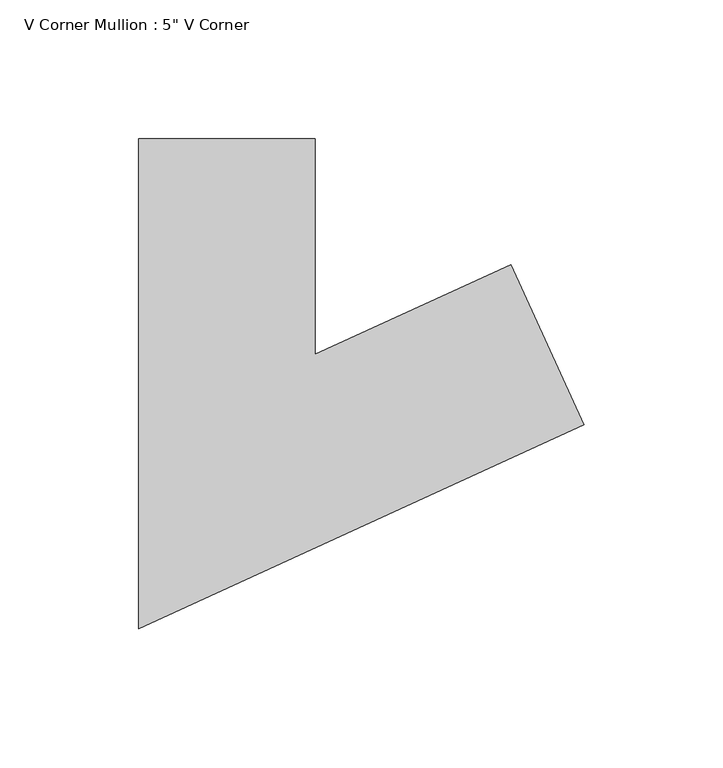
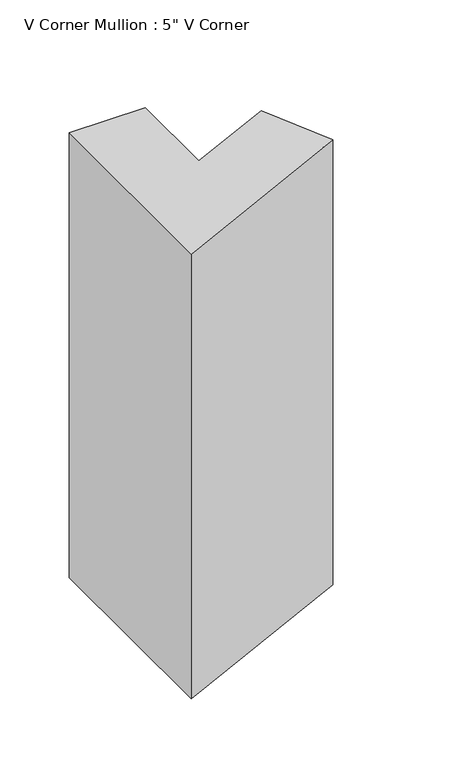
"""IFC4 building model written with IfcOpenShell, lengths in millimetres: member geometry."""

from ifc_helpers import new_model, si_unit, frame, origin, place, context, project, spatial, polyline, outline, extrude, source, transform, mapped, element, save


def member_c5bb3335(model_context):
    return source(origin(), model_context, "Body", "SweptSolid", [
        extrude(outline(polyline([(87.9205542, -39.5195451), (-72.5228811, -112.9476953), (-72.5228811, 63.5), (-9.0228811, 63.5), (-9.0228811, -14.0523047), (61.49523, 18.2208415), (87.9205542, -39.5195451)])), frame((0.0, 0.0, -392.4188496), z_axis=(0.0, 0.0, 1.0), x_axis=(1.0, 0.0, 0.0)), (0.0, 0.0, 1.0), 392.4188496),
    ])


if __name__ == "__main__":
    model = new_model("IFC4")
    model_context = context("Model", 3, world=origin())
    ifc_project = project(units=[si_unit("LENGTHUNIT", "METRE", prefix="MILLI")], contexts=[model_context])
    site = spatial("IfcSite", under=ifc_project)
    building = spatial("IfcBuilding", under=site)
    placement = place(None, origin())
    member_shape = member_c5bb3335(model_context)
    element("IfcMember", 1, ObjectType="V Corner Mullion : 5\" V Corner", at=placement, inside=building, context=model_context, shape_type="MappedRepresentation", body=[
        mapped(member_shape, transform((0.0, 0.0, 0.0), x_axis=(1.0, 0.0, 0.0), y_axis=(0.0, 1.0, 0.0), z_axis=(0.0, 0.0, 1.0))),
    ])
    save(model, "model.ifc")
